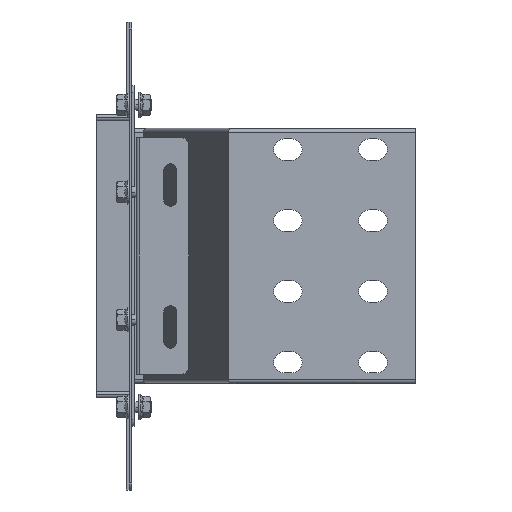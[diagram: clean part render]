
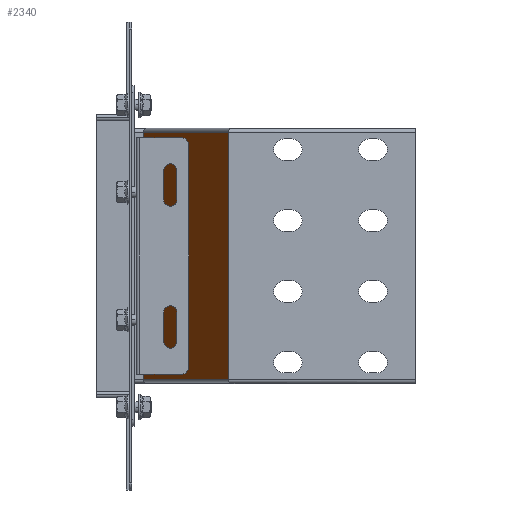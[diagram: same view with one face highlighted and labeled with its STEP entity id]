
A CAD part, front view. The second image highlights one B-rep face of the part: STEP entity #2340.
In plain terms, the highlighted planar face has unit normal (-0.919, -0.394, 0).
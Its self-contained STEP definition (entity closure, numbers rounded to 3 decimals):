
#2320=AXIS2_PLACEMENT_3D('Plane Axis2P3D',#2317,#2318,#2319) ;
#1811=CARTESIAN_POINT('Vertex',(68.087,-152.9,-87.1)) ;
#1825=CARTESIAN_POINT('Vertex',(68.087,-152.9,87.1)) ;
#1828=CARTESIAN_POINT('Line Origine',(68.087,-152.9,0.)) ;
#2280=CARTESIAN_POINT('Line Origine',(37.334,-81.061,-87.1)) ;
#2284=CARTESIAN_POINT('Vertex',(8.087,-12.74,-87.1)) ;
#2317=CARTESIAN_POINT('Axis2P3D Location',(68.84,-154.659,-87.1)) ;
#2322=CARTESIAN_POINT('Line Origine',(38.087,-82.82,87.1)) ;
#2326=CARTESIAN_POINT('Vertex',(8.087,-12.74,87.1)) ;
#2329=CARTESIAN_POINT('Line Origine',(8.087,-12.74,0.)) ;
#1829=DIRECTION('Vector Direction',(0.,0.,1.)) ;
#2281=DIRECTION('Vector Direction',(0.394,-0.919,0.)) ;
#2318=DIRECTION('Axis2P3D Direction',(-0.919,-0.394,0.)) ;
#2319=DIRECTION('Axis2P3D XDirection',(0.,0.,1.)) ;
#2323=DIRECTION('Vector Direction',(-0.394,0.919,0.)) ;
#2330=DIRECTION('Vector Direction',(0.,0.,1.)) ;
#1830=VECTOR('Line Direction',#1829,1.) ;
#2282=VECTOR('Line Direction',#2281,1.) ;
#2324=VECTOR('Line Direction',#2323,1.) ;
#2331=VECTOR('Line Direction',#2330,1.) ;
#2335=ORIENTED_EDGE('',*,*,#2328,.T.) ;
#2336=ORIENTED_EDGE('',*,*,#2333,.F.) ;
#2337=ORIENTED_EDGE('',*,*,#2286,.F.) ;
#2338=ORIENTED_EDGE('',*,*,#1832,.T.) ;
#2340=ADVANCED_FACE('N',(#2339),#2321,.T.) ;
#1832=EDGE_CURVE('',#1812,#1826,#1831,.T.) ;
#2286=EDGE_CURVE('',#1812,#2285,#2283,.F.) ;
#2328=EDGE_CURVE('',#1826,#2327,#2325,.T.) ;
#2333=EDGE_CURVE('',#2285,#2327,#2332,.T.) ;
#2334=EDGE_LOOP('',(#2335,#2336,#2337,#2338)) ;
#2339=FACE_OUTER_BOUND('',#2334,.T.) ;
#1831=LINE('Line',#1828,#1830) ;
#2283=LINE('Line',#2280,#2282) ;
#2325=LINE('Line',#2322,#2324) ;
#2332=LINE('Line',#2329,#2331) ;
#2321=PLANE('',#2320) ;
#1812=VERTEX_POINT('',#1811) ;
#1826=VERTEX_POINT('',#1825) ;
#2285=VERTEX_POINT('',#2284) ;
#2327=VERTEX_POINT('',#2326) ;
